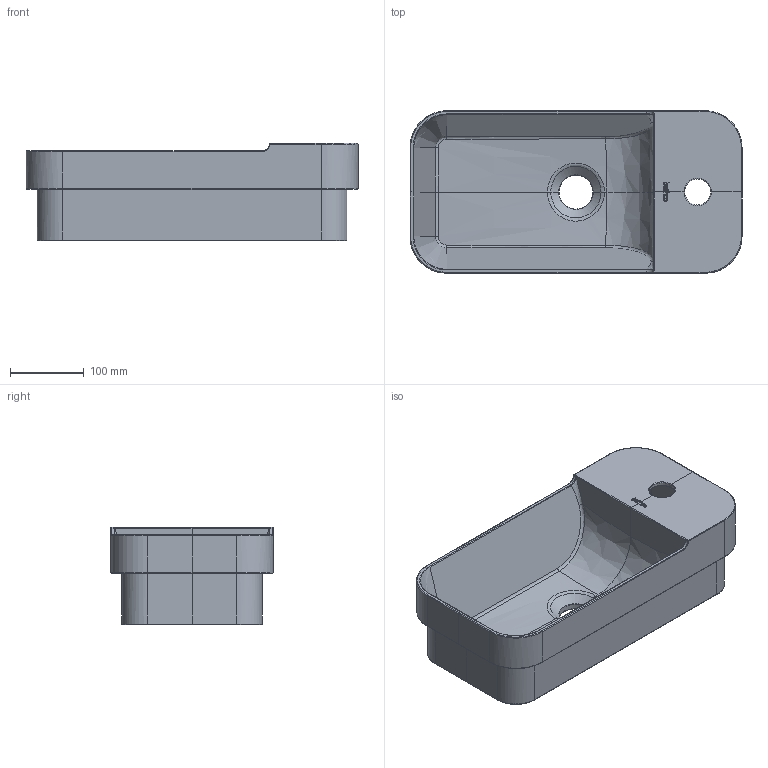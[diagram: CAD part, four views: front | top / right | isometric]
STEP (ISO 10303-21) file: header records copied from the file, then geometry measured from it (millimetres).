
FILE_DESCRIPTION(/* description */ (''),/* implementation_level */ '2;1');
FILE_NAME(/* name */ 'BATHCO~1',/* time_stamp */ '2024-05-21T10:21:11+02:00',/* author */ (''),/* organization */ (''),/* preprocessor_version */ 'ST-DEVELOPER v16.5',/* originating_system */ '',/* authorisation */ '');
FILE_SCHEMA (('CONFIG_CONTROL_DESIGN'));
Length unit declared in the file: millimetre
Products named in the file (1): Document
Bounding box: 450 x 220 x 132.2 mm (x, y, z)
Volume: 2197490.1 mm3; surface area: 498477.7 mm2
Topology: 7 solids, 7 shells, 276 faces, 624 edges, 352 vertices
Faces by surface type: bspline 126, plane 91, cylinder 59
Full cylindrical faces by diameter (mm): 35 x1
Entity records: 14828 total; most frequent: CARTESIAN_POINT 10867, ORIENTED_EDGE 1236, EDGE_CURVE 618, VERTEX_POINT 352, B_SPLINE_CURVE_WITH_KNOTS 329, EDGE_LOOP 282, ADVANCED_FACE 276, FACE_OUTER_BOUND 276
